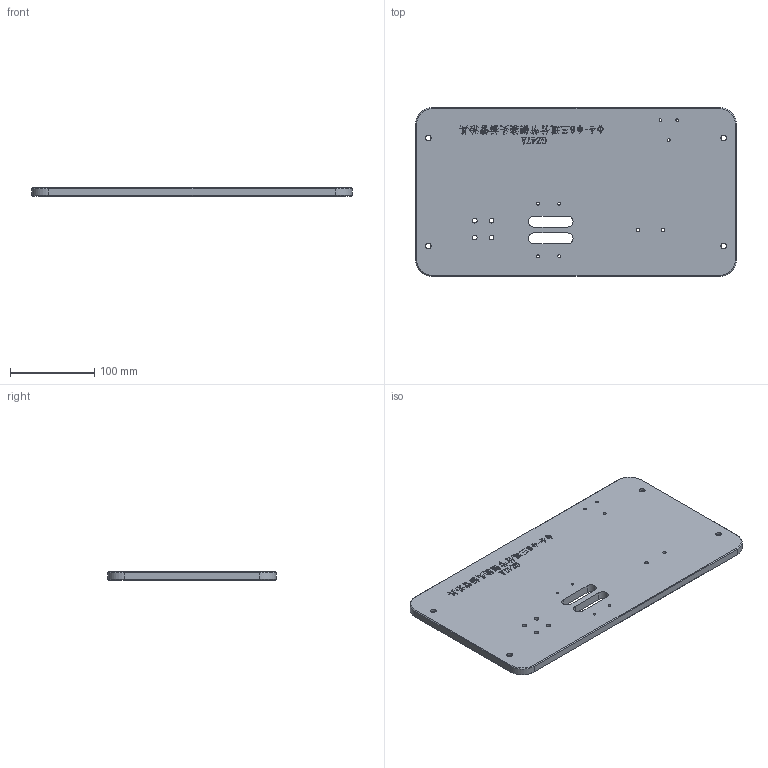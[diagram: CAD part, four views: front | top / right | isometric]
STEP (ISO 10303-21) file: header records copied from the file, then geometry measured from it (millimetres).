
FILE_DESCRIPTION (( 'STEP AP214' ), '1' );
FILE_NAME ('GZ47A.01_V1底座.STEP', '2021-06-30T07:59:24', ( '微软中国' ), ( 'Microsoft' ), 'SwSTEP 2.0', 'SolidWorks 2017', '' );
FILE_SCHEMA (( 'AUTOMOTIVE_DESIGN' ));
Length unit declared in the file: millimetre
Products named in the file (1): GZ47A.01_V1菁釱
Bounding box: 380 x 200 x 10 mm (x, y, z)
Volume: 736316.4 mm3; surface area: 163626.2 mm2
Topology: 1 solids, 1 shells, 887 faces, 2441 edges, 1622 vertices
Faces by surface type: plane 513, bspline 306, cylinder 60, cone 8
Entity records: 49440 total; most frequent: CARTESIAN_POINT 19961, ORIENTED_EDGE 4882, DIRECTION 3121, EDGE_CURVE 2441, VECTOR 1701, LINE 1701, VERTEX_POINT 1622, EDGE_LOOP 991
